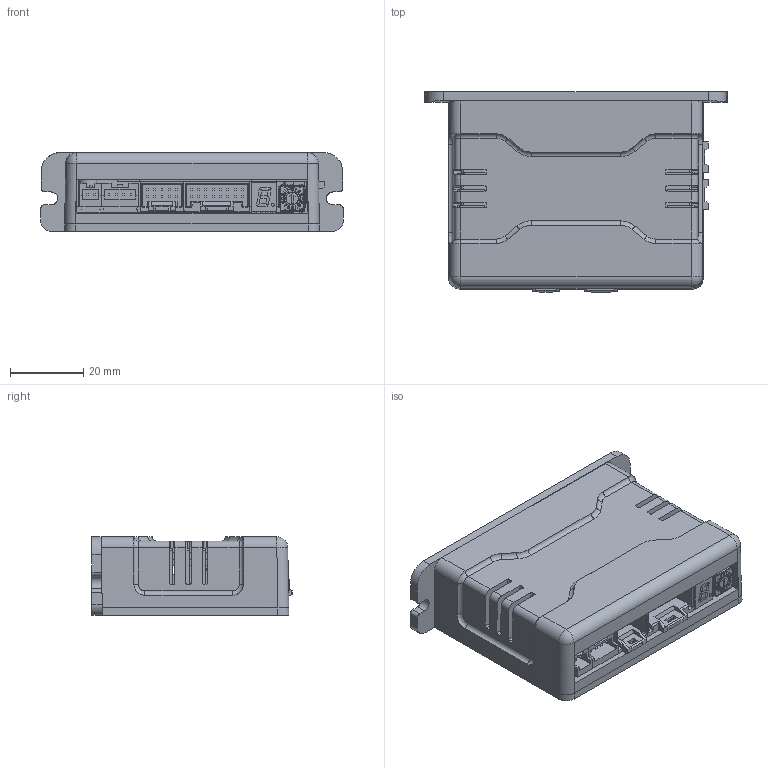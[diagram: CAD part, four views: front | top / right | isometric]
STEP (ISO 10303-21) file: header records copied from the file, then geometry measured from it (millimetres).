
FILE_DESCRIPTION (( 'STEP AP203' ), '1' );
FILE_NAME ('P14-DR-000-01-R00.STEP', '2017-01-06T06:51:25', ( '' ), ( '' ), 'SwSTEP 2.0', 'SolidWorks 2013', '' );
FILE_SCHEMA (( 'CONFIG_CONTROL_DESIGN' ));
Length unit declared in the file: millimetre
Products named in the file (16): _Without knob (Minus slot); M12-DR-000-01-R00; SA-7070TA; M14-DR-000-01-R00; 5018761640; Ezi-SERVO MINI PCB1; tda04h0sb1_012011; Ezi-SERVO MINI PCB2; ACSX02-41; 5018761040; 353630360; S02B-PASK-2; countersunk flat cross head screw_ks_KS 1023 FC- M3 x 14-N; S04B-PASK-2; P14-DR-000-01-R00; _SA-7070A_body
Assembly tree (17 placements, depth 3):
  P14-DR-000-01-R00
    M12-DR-000-01-R00
    M14-DR-000-01-R00
    Ezi-SERVO MINI PCB1
    Ezi-SERVO MINI PCB2
    5018761040
    S02B-PASK-2
    S04B-PASK-2
    SA-7070TA
      _SA-7070A_body
      _Without knob (Minus slot)
    5018761640
    tda04h0sb1_012011
    ACSX02-41
    353630360  x2
    countersunk flat cross head screw_ks_KS 1023 FC- M3 x 14-N  x2
Bounding box: 82.84 x 54.8 x 21.5 mm (x, y, z)
Volume: 37206.5 mm3; surface area: 41376.2 mm2
Topology: 27 solids, 27 shells, 3402 faces, 9409 edges, 6194 vertices
Faces by surface type: plane 2767, cylinder 462, bspline 109, cone 36, torus 24, sphere 4
Entity records: 107316 total; most frequent: CARTESIAN_POINT 24058, ORIENTED_EDGE 17764, DIRECTION 15386, EDGE_CURVE 8882, LINE 7676, VECTOR 7676, VERTEX_POINT 5861, AXIS2_PLACEMENT_3D 3855
